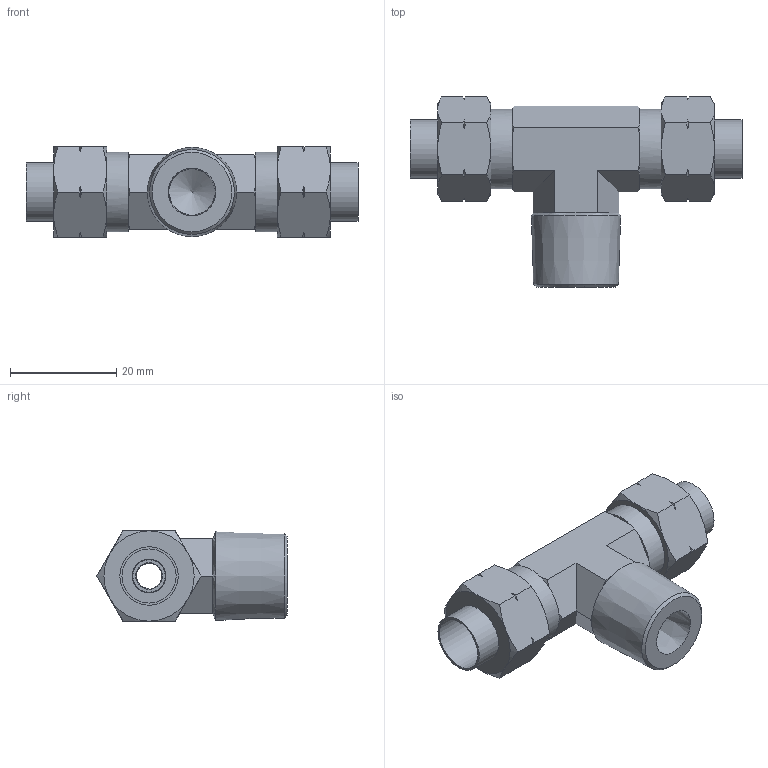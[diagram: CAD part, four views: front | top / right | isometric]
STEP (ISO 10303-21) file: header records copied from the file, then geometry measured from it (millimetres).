
FILE_DESCRIPTION((''),'2;1');
FILE_NAME('D:\INVENTOR\[New Inventor]\CDC Products 3D Ass''y\Two-Touch Fittings\Metric\CT\CT10-6.5--03.stp','2009-02-23T16:45:35',('Microsoft'),(''),'Autodesk Inventor 2008','Autodesk Inventor 2008','');
FILE_SCHEMA(('AUTOMOTIVE_DESIGN { 1 0 10303 214 1 1 1 1 }'));
Length unit declared in the file: millimetre
Products named in the file (1): CT10-6
Bounding box: 62.54 x 35.81 x 17 mm (x, y, z)
Volume: 10568 mm3; surface area: 7710.9 mm2
Topology: 1 solids, 1 shells, 129 faces, 300 edges, 179 vertices
Faces by surface type: cone 56, plane 39, bspline 26, cylinder 7, torus 1
Full cylindrical faces by diameter (mm): 5 x1, 6.3 x1, 10.2 x1, 11 x2, 15 x2
Entity records: 3846 total; most frequent: CARTESIAN_POINT 1394, ORIENTED_EDGE 556, DIRECTION 447, EDGE_CURVE 278, AXIS2_PLACEMENT_3D 193, VERTEX_POINT 173, EDGE_LOOP 155, FACE_OUTER_BOUND 129
